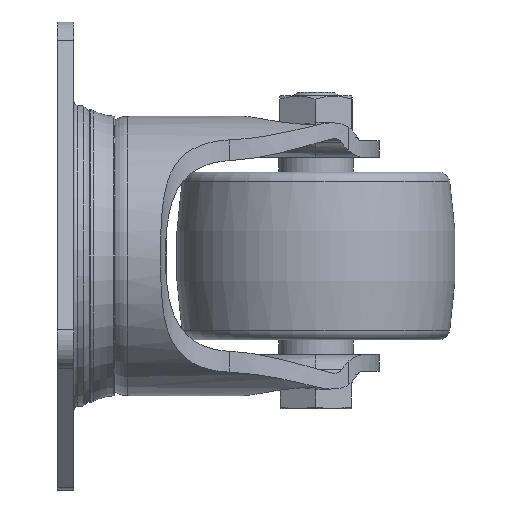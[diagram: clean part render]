
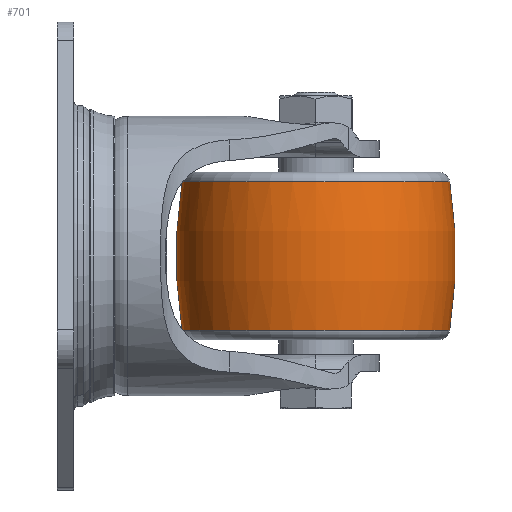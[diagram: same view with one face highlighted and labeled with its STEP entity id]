
A CAD part, left-side view. The second image highlights one B-rep face of the part: STEP entity #701.
In plain terms, the highlighted toroidal (fillet/blend) face has major radius 90.062 mm and minor radius 127.562 mm.
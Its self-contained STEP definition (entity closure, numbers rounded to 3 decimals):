
#105 = DIRECTION ( 'NONE',  ( 0., 1., 0. ) ) ;
#129 = EDGE_CURVE ( 'NONE', #6524, #6704, #7657, .T. ) ;
#149 = CARTESIAN_POINT ( 'NONE',  ( 0., 0., 0. ) ) ;
#701 = ADVANCED_FACE ( 'NONE', ( #6515 ), #10038, .T. ) ;
#1098 = DIRECTION ( 'NONE',  ( 0., 1., 0. ) ) ;
#1111 = VERTEX_POINT ( 'NONE', #10211 ) ;
#1927 = AXIS2_PLACEMENT_3D ( 'NONE', #2724, #8290, #3531 ) ;
#2724 = CARTESIAN_POINT ( 'NONE',  ( 0., 0., 90.063 ) ) ;
#3194 = AXIS2_PLACEMENT_3D ( 'NONE', #4834, #105, #5634 ) ;
#3196 = DIRECTION ( 'NONE',  ( -1., 0., 0. ) ) ;
#3531 = DIRECTION ( 'NONE',  ( 0., 0., -1. ) ) ;
#3620 = CARTESIAN_POINT ( 'NONE',  ( 0., 19.97, 35.927 ) ) ;
#4151 = AXIS2_PLACEMENT_3D ( 'NONE', #149, #7114, #8764 ) ;
#4237 = ORIENTED_EDGE ( 'NONE', *, *, #7180, .F. ) ;
#4834 = CARTESIAN_POINT ( 'NONE',  ( 0., -19.97, 0. ) ) ;
#4908 = DIRECTION ( 'NONE',  ( 0., 0., 1. ) ) ;
#5229 = CIRCLE ( 'NONE', #1927, 127.563 ) ;
#5634 = DIRECTION ( 'NONE',  ( 0., 0., 1. ) ) ;
#5659 = AXIS2_PLACEMENT_3D ( 'NONE', #5853, #1098, #6656 ) ;
#5853 = CARTESIAN_POINT ( 'NONE',  ( 0., 19.97, 0. ) ) ;
#6491 = CARTESIAN_POINT ( 'NONE',  ( 0., -19.97, -35.927 ) ) ;
#6515 = FACE_OUTER_BOUND ( 'NONE', #7984, .T. ) ;
#6524 = VERTEX_POINT ( 'NONE', #9906 ) ;
#6656 = DIRECTION ( 'NONE',  ( 0., 0., 1. ) ) ;
#6679 = AXIS2_PLACEMENT_3D ( 'NONE', #7173, #3196, #4908 ) ;
#6704 = VERTEX_POINT ( 'NONE', #3620 ) ;
#6889 = VERTEX_POINT ( 'NONE', #6491 ) ;
#7114 = DIRECTION ( 'NONE',  ( 0., 1., 0. ) ) ;
#7173 = CARTESIAN_POINT ( 'NONE',  ( 0., 0., -90.063 ) ) ;
#7180 = EDGE_CURVE ( 'NONE', #1111, #6704, #8495, .T. ) ;
#7657 = CIRCLE ( 'NONE', #6679, 127.563 ) ;
#7668 = EDGE_CURVE ( 'NONE', #6889, #6524, #8602, .T. ) ;
#7835 = EDGE_CURVE ( 'NONE', #6889, #1111, #5229, .T. ) ;
#7984 = EDGE_LOOP ( 'NONE', ( #8823, #8641, #9713, #4237 ) ) ;
#8290 = DIRECTION ( 'NONE',  ( 1., 0., 0. ) ) ;
#8495 = CIRCLE ( 'NONE', #5659, 35.927 ) ;
#8602 = CIRCLE ( 'NONE', #3194, 35.927 ) ;
#8641 = ORIENTED_EDGE ( 'NONE', *, *, #7668, .T. ) ;
#8764 = DIRECTION ( 'NONE',  ( 0., 0., 1. ) ) ;
#8823 = ORIENTED_EDGE ( 'NONE', *, *, #7835, .F. ) ;
#9713 = ORIENTED_EDGE ( 'NONE', *, *, #129, .T. ) ;
#9906 = CARTESIAN_POINT ( 'NONE',  ( 0., -19.97, 35.927 ) ) ;
#10038 = TOROIDAL_SURFACE ( 'NONE', #4151, -90.063, 127.563 ) ;
#10211 = CARTESIAN_POINT ( 'NONE',  ( 0., 19.97, -35.927 ) ) ;
